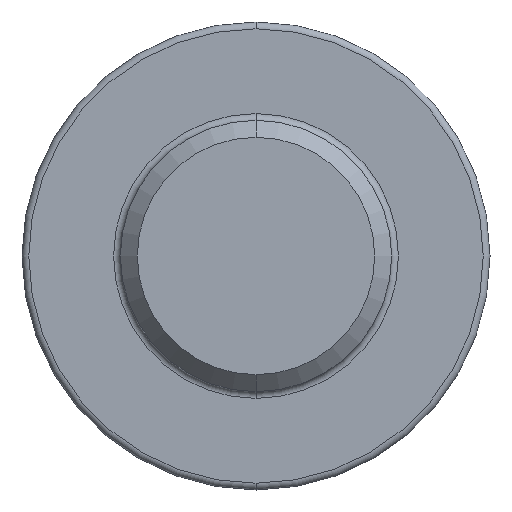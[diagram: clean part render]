
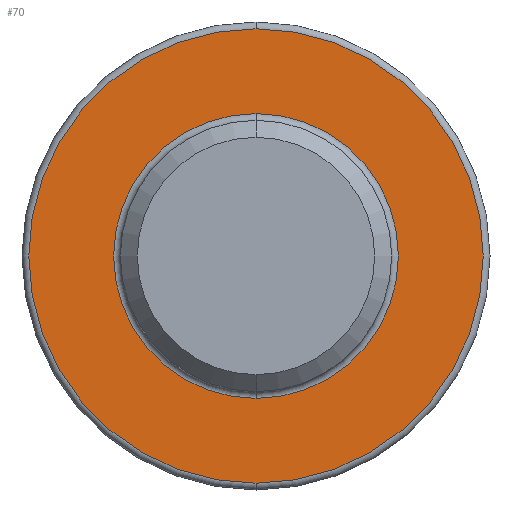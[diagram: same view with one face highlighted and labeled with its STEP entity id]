
A CAD part, front view. The second image highlights one B-rep face of the part: STEP entity #70.
In plain terms, the highlighted planar face has unit normal (0, -1, 0).
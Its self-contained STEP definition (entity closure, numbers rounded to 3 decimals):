
#14 = DIRECTION ( 'NONE',  ( 0., 1., 0. ) ) ;
#21 = CARTESIAN_POINT ( 'NONE',  ( 0., -4.2, 0. ) ) ;
#23 = EDGE_LOOP ( 'NONE', ( #346, #674 ) ) ;
#35 = DIRECTION ( 'NONE',  ( 0., 1., 0. ) ) ;
#44 = VERTEX_POINT ( 'NONE', #471 ) ;
#70 = ADVANCED_FACE ( 'NONE', ( #742, #139 ), #276, .F. ) ;
#78 = EDGE_CURVE ( 'NONE', #44, #310, #661, .T. ) ;
#122 = AXIS2_PLACEMENT_3D ( 'NONE', #601, #14, #335 ) ;
#139 = FACE_OUTER_BOUND ( 'NONE', #23, .T. ) ;
#149 = CIRCLE ( 'NONE', #618, 4.2 ) ;
#157 = CARTESIAN_POINT ( 'NONE',  ( 0., -4.2, 4.2 ) ) ;
#160 = ORIENTED_EDGE ( 'NONE', *, *, #494, .T. ) ;
#177 = AXIS2_PLACEMENT_3D ( 'NONE', #667, #271, #805 ) ;
#206 = EDGE_CURVE ( 'NONE', #649, #735, #149, .T. ) ;
#255 = ORIENTED_EDGE ( 'NONE', *, *, #206, .T. ) ;
#256 = CARTESIAN_POINT ( 'NONE',  ( 0., -4.2, -4.2 ) ) ;
#257 = CARTESIAN_POINT ( 'NONE',  ( 0., -4.2, -6.7 ) ) ;
#271 = DIRECTION ( 'NONE',  ( 0., -1., 0. ) ) ;
#276 = PLANE ( 'NONE',  #534 ) ;
#285 = DIRECTION ( 'NONE',  ( 0., 0., 1. ) ) ;
#310 = VERTEX_POINT ( 'NONE', #257 ) ;
#335 = DIRECTION ( 'NONE',  ( 0., 0., 1. ) ) ;
#346 = ORIENTED_EDGE ( 'NONE', *, *, #78, .T. ) ;
#361 = DIRECTION ( 'NONE',  ( 0., 0., 1. ) ) ;
#384 = CIRCLE ( 'NONE', #796, 6.7 ) ;
#402 = DIRECTION ( 'NONE',  ( 0., 1., 0. ) ) ;
#414 = EDGE_CURVE ( 'NONE', #310, #44, #384, .T. ) ;
#432 = CARTESIAN_POINT ( 'NONE',  ( 0., -4.2, 0. ) ) ;
#466 = CIRCLE ( 'NONE', #122, 4.2 ) ;
#471 = CARTESIAN_POINT ( 'NONE',  ( 0., -4.2, 6.7 ) ) ;
#494 = EDGE_CURVE ( 'NONE', #735, #649, #466, .T. ) ;
#534 = AXIS2_PLACEMENT_3D ( 'NONE', #544, #402, #610 ) ;
#544 = CARTESIAN_POINT ( 'NONE',  ( 4., -4.2, 0. ) ) ;
#557 = EDGE_LOOP ( 'NONE', ( #255, #160 ) ) ;
#601 = CARTESIAN_POINT ( 'NONE',  ( 0., -4.2, 0. ) ) ;
#610 = DIRECTION ( 'NONE',  ( 0., 0., 1. ) ) ;
#618 = AXIS2_PLACEMENT_3D ( 'NONE', #432, #35, #361 ) ;
#649 = VERTEX_POINT ( 'NONE', #157 ) ;
#661 = CIRCLE ( 'NONE', #177, 6.7 ) ;
#667 = CARTESIAN_POINT ( 'NONE',  ( 0., -4.2, 0. ) ) ;
#674 = ORIENTED_EDGE ( 'NONE', *, *, #414, .T. ) ;
#735 = VERTEX_POINT ( 'NONE', #256 ) ;
#742 = FACE_BOUND ( 'NONE', #557, .T. ) ;
#747 = DIRECTION ( 'NONE',  ( 0., -1., 0. ) ) ;
#796 = AXIS2_PLACEMENT_3D ( 'NONE', #21, #747, #285 ) ;
#805 = DIRECTION ( 'NONE',  ( 0., 0., 1. ) ) ;
